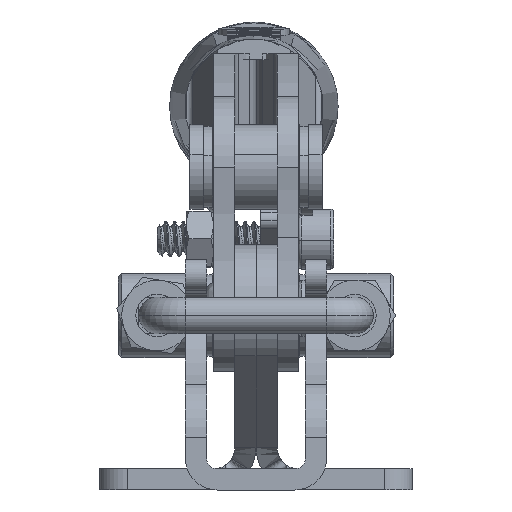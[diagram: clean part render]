
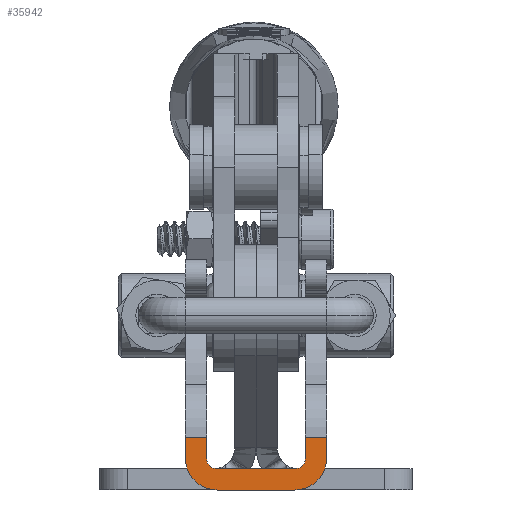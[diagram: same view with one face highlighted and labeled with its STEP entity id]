
A CAD part, left-side view. The second image highlights one B-rep face of the part: STEP entity #35942.
In plain terms, the highlighted planar face has unit normal (-1, 0, 0).
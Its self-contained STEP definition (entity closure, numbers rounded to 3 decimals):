
#650 = CARTESIAN_POINT ( 'NONE',  ( 1893.108, 69.576, 107.474 ) ) ;
#1522 = DIRECTION ( 'NONE',  ( 0., 0., 1. ) ) ;
#1814 = LINE ( 'NONE', #16682, #21491 ) ;
#2279 = LINE ( 'NONE', #2515, #20795 ) ;
#2307 = CARTESIAN_POINT ( 'NONE',  ( 1893.108, 72.576, 104.5 ) ) ;
#2313 = ORIENTED_EDGE ( 'NONE', *, *, #5355, .F. ) ;
#2460 = CARTESIAN_POINT ( 'NONE',  ( 1893.108, 74.076, 100. ) ) ;
#2515 = CARTESIAN_POINT ( 'NONE',  ( 1893.108, 86.576, 107.474 ) ) ;
#2534 = DIRECTION ( 'NONE',  ( 0., 1., 0. ) ) ;
#2673 = ORIENTED_EDGE ( 'NONE', *, *, #25883, .F. ) ;
#2839 = CIRCLE ( 'NONE', #30097, 1.5 ) ;
#3538 = DIRECTION ( 'NONE',  ( 0., -1., 0. ) ) ;
#3839 = LINE ( 'NONE', #30655, #23794 ) ;
#3931 = ORIENTED_EDGE ( 'NONE', *, *, #44081, .F. ) ;
#4034 = ORIENTED_EDGE ( 'NONE', *, *, #40585, .F. ) ;
#4407 = CARTESIAN_POINT ( 'NONE',  ( 1893.108, 72.576, 100. ) ) ;
#4650 = DIRECTION ( 'NONE',  ( 0., -1., 0. ) ) ;
#5283 = CARTESIAN_POINT ( 'NONE',  ( 1893.108, 69.576, 104.5 ) ) ;
#5355 = EDGE_CURVE ( 'NONE', #40740, #40443, #25838, .T. ) ;
#5565 = DIRECTION ( 'NONE',  ( 1., 0., 0. ) ) ;
#7202 = CARTESIAN_POINT ( 'NONE',  ( 1893.108, 72.576, 107.474 ) ) ;
#8346 = CARTESIAN_POINT ( 'NONE',  ( 1893.108, 85.076, 103. ) ) ;
#10439 = AXIS2_PLACEMENT_3D ( 'NONE', #4407, #38050, #19286 ) ;
#10821 = VECTOR ( 'NONE', #43984, 1000. ) ;
#11375 = ORIENTED_EDGE ( 'NONE', *, *, #46400, .T. ) ;
#11726 = VERTEX_POINT ( 'NONE', #32716 ) ;
#13046 = AXIS2_PLACEMENT_3D ( 'NONE', #32336, #21107, #36463 ) ;
#13858 = CARTESIAN_POINT ( 'NONE',  ( 1893.108, 74.076, 104.5 ) ) ;
#14410 = VERTEX_POINT ( 'NONE', #8346 ) ;
#14641 = DIRECTION ( 'NONE',  ( 0., -1., 0. ) ) ;
#14927 = EDGE_CURVE ( 'NONE', #48141, #16746, #3839, .T. ) ;
#15053 = VECTOR ( 'NONE', #18951, 1000. ) ;
#15062 = LINE ( 'NONE', #29927, #15053 ) ;
#15539 = CARTESIAN_POINT ( 'NONE',  ( 1893.108, 86.576, 107.474 ) ) ;
#15645 = ORIENTED_EDGE ( 'NONE', *, *, #46124, .F. ) ;
#16097 = EDGE_CURVE ( 'NONE', #14410, #20299, #2839, .T. ) ;
#16682 = CARTESIAN_POINT ( 'NONE',  ( 1893.108, 69.576, 100. ) ) ;
#16746 = VERTEX_POINT ( 'NONE', #2307 ) ;
#17069 = DIRECTION ( 'NONE',  ( 0., 0., 1. ) ) ;
#18075 = ORIENTED_EDGE ( 'NONE', *, *, #33039, .F. ) ;
#18894 = EDGE_CURVE ( 'NONE', #11726, #44234, #20033, .T. ) ;
#18951 = DIRECTION ( 'NONE',  ( 0., 0., 1. ) ) ;
#19206 = DIRECTION ( 'NONE',  ( 0., 0., -1. ) ) ;
#19286 = DIRECTION ( 'NONE',  ( 0., 0., -1. ) ) ;
#19998 = LINE ( 'NONE', #23650, #39553 ) ;
#20033 = CIRCLE ( 'NONE', #13046, 4.5 ) ;
#20299 = VERTEX_POINT ( 'NONE', #47992 ) ;
#20712 = CARTESIAN_POINT ( 'NONE',  ( 1893.108, 74.076, 104.5 ) ) ;
#20795 = VECTOR ( 'NONE', #32023, 1000. ) ;
#21107 = DIRECTION ( 'NONE',  ( 1., 0., 0. ) ) ;
#21491 = VECTOR ( 'NONE', #2534, 1000. ) ;
#21862 = ORIENTED_EDGE ( 'NONE', *, *, #18894, .F. ) ;
#21900 = VERTEX_POINT ( 'NONE', #25269 ) ;
#22712 = VECTOR ( 'NONE', #3538, 1000. ) ;
#22932 = FACE_OUTER_BOUND ( 'NONE', #24787, .T. ) ;
#23136 = CIRCLE ( 'NONE', #31692, 4.5 ) ;
#23227 = DIRECTION ( 'NONE',  ( 1., 0., 0. ) ) ;
#23650 = CARTESIAN_POINT ( 'NONE',  ( 1893.108, 84.576, 103. ) ) ;
#23794 = VECTOR ( 'NONE', #19206, 1000. ) ;
#24787 = EDGE_LOOP ( 'NONE', ( #42541, #18075, #47305, #11375, #15645, #46324, #28309, #2313, #2673, #21862, #4034, #3931 ) ) ;
#25269 = CARTESIAN_POINT ( 'NONE',  ( 1893.108, 74.076, 103. ) ) ;
#25838 = LINE ( 'NONE', #15539, #35241 ) ;
#25883 = EDGE_CURVE ( 'NONE', #44234, #40740, #15062, .T. ) ;
#26332 = CIRCLE ( 'NONE', #43453, 1.5 ) ;
#28309 = ORIENTED_EDGE ( 'NONE', *, *, #44705, .T. ) ;
#28720 = DIRECTION ( 'NONE',  ( 0., 0., 1. ) ) ;
#29096 = CARTESIAN_POINT ( 'NONE',  ( 1893.108, 89.576, 107.474 ) ) ;
#29672 = CARTESIAN_POINT ( 'NONE',  ( 1893.108, 72.576, 107.474 ) ) ;
#29927 = CARTESIAN_POINT ( 'NONE',  ( 1893.108, 89.576, 100. ) ) ;
#30097 = AXIS2_PLACEMENT_3D ( 'NONE', #42467, #23227, #1522 ) ;
#30655 = CARTESIAN_POINT ( 'NONE',  ( 1893.108, 72.576, 107.474 ) ) ;
#31214 = PLANE ( 'NONE',  #10439 ) ;
#31503 = VERTEX_POINT ( 'NONE', #2460 ) ;
#31692 = AXIS2_PLACEMENT_3D ( 'NONE', #13858, #5565, #28720 ) ;
#32023 = DIRECTION ( 'NONE',  ( 0., 0., 1. ) ) ;
#32336 = CARTESIAN_POINT ( 'NONE',  ( 1893.108, 85.076, 104.5 ) ) ;
#32716 = CARTESIAN_POINT ( 'NONE',  ( 1893.108, 85.076, 100. ) ) ;
#33039 = EDGE_CURVE ( 'NONE', #48141, #42908, #40605, .T. ) ;
#35241 = VECTOR ( 'NONE', #14641, 1000. ) ;
#35280 = LINE ( 'NONE', #35529, #10821 ) ;
#35529 = CARTESIAN_POINT ( 'NONE',  ( 1893.108, 69.576, 100. ) ) ;
#35942 = ADVANCED_FACE ( 'NONE', ( #22932 ), #31214, .F. ) ;
#36463 = DIRECTION ( 'NONE',  ( 0., 0., 1. ) ) ;
#37666 = CARTESIAN_POINT ( 'NONE',  ( 1893.108, 86.576, 107.474 ) ) ;
#38050 = DIRECTION ( 'NONE',  ( 1., 0., 0. ) ) ;
#38992 = DIRECTION ( 'NONE',  ( 1., 0., 0. ) ) ;
#39553 = VECTOR ( 'NONE', #4650, 1000. ) ;
#39856 = VERTEX_POINT ( 'NONE', #5283 ) ;
#40443 = VERTEX_POINT ( 'NONE', #37666 ) ;
#40585 = EDGE_CURVE ( 'NONE', #31503, #11726, #1814, .T. ) ;
#40605 = LINE ( 'NONE', #7202, #22712 ) ;
#40740 = VERTEX_POINT ( 'NONE', #29096 ) ;
#42467 = CARTESIAN_POINT ( 'NONE',  ( 1893.108, 85.076, 104.5 ) ) ;
#42541 = ORIENTED_EDGE ( 'NONE', *, *, #46869, .F. ) ;
#42908 = VERTEX_POINT ( 'NONE', #650 ) ;
#43453 = AXIS2_PLACEMENT_3D ( 'NONE', #20712, #38992, #17069 ) ;
#43533 = CARTESIAN_POINT ( 'NONE',  ( 1893.108, 89.576, 104.5 ) ) ;
#43984 = DIRECTION ( 'NONE',  ( 0., 0., -1. ) ) ;
#44081 = EDGE_CURVE ( 'NONE', #39856, #31503, #23136, .T. ) ;
#44234 = VERTEX_POINT ( 'NONE', #43533 ) ;
#44705 = EDGE_CURVE ( 'NONE', #20299, #40443, #2279, .T. ) ;
#46124 = EDGE_CURVE ( 'NONE', #14410, #21900, #19998, .T. ) ;
#46324 = ORIENTED_EDGE ( 'NONE', *, *, #16097, .T. ) ;
#46400 = EDGE_CURVE ( 'NONE', #16746, #21900, #26332, .T. ) ;
#46869 = EDGE_CURVE ( 'NONE', #42908, #39856, #35280, .T. ) ;
#47305 = ORIENTED_EDGE ( 'NONE', *, *, #14927, .T. ) ;
#47992 = CARTESIAN_POINT ( 'NONE',  ( 1893.108, 86.576, 104.5 ) ) ;
#48141 = VERTEX_POINT ( 'NONE', #29672 ) ;
